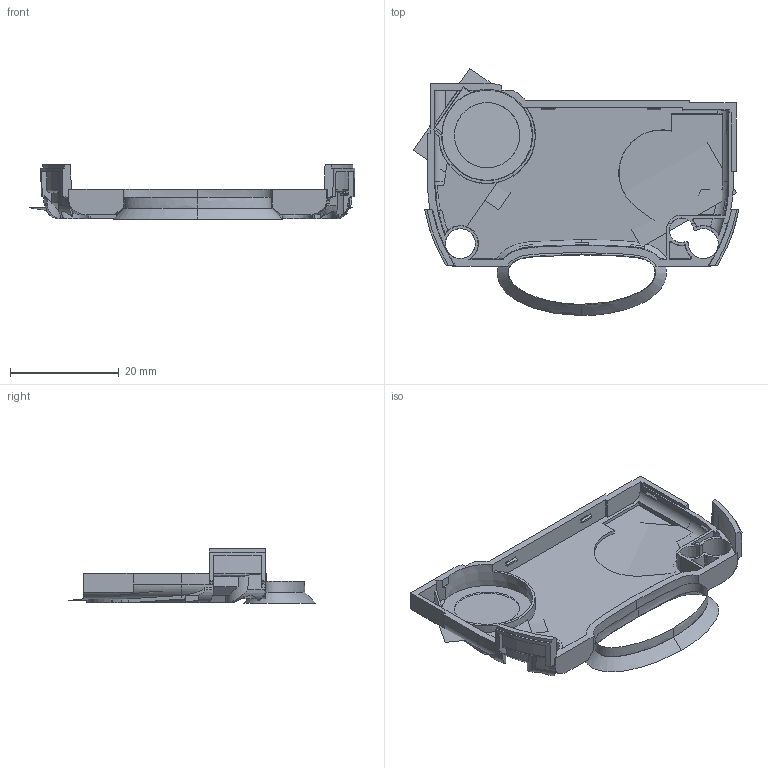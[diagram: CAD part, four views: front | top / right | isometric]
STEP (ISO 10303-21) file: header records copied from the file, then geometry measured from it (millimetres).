
FILE_DESCRIPTION((''),'2;1');
FILE_NAME('GTC02-MSH01_PRT','2008-06-30T',('GRA'),(''),'PRO/ENGINEER BY PARAMETRIC TECHNOLOGY CORPORATION, 2006170','PRO/ENGINEER BY PARAMETRIC TECHNOLOGY CORPORATION, 2006170','');
FILE_SCHEMA(('CONFIG_CONTROL_DESIGN'));
Length unit declared in the file: millimetre
Products named in the file (1): GTC02-MSH01_PRT
Bounding box: 59.85 x 45.41 x 10 mm (x, y, z)
Volume: 2439.6 mm3; surface area: 6380.9 mm2
Topology: 1 solids, 6 shells, 283 faces, 826 edges, 549 vertices
Faces by surface type: plane 154, cone 42, cylinder 32, bspline 27, torus 19, extrusion 8, sphere 1
Entity records: 11894 total; most frequent: CARTESIAN_POINT 4831, ORIENTED_EDGE 1632, DIRECTION 1230, EDGE_CURVE 826, VERTEX_POINT 549, AXIS2_PLACEMENT_3D 432, VECTOR 366, LINE 358
